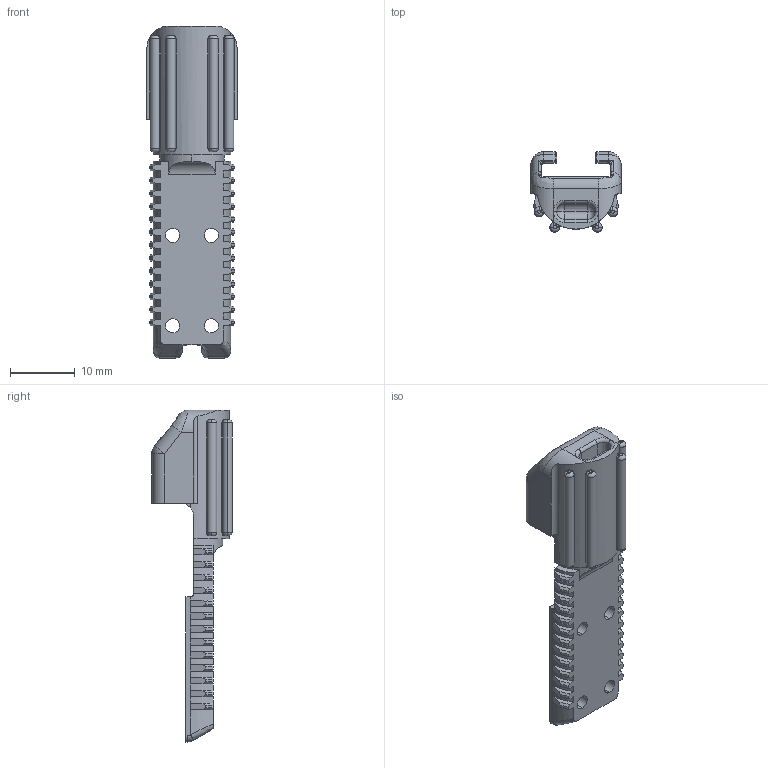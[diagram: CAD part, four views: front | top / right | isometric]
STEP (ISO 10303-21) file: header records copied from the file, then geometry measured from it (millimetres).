
FILE_DESCRIPTION (( 'STEP AP203' ), '1' );
FILE_NAME ('BR01_FOOT_FOREFOOT_v6.STEP', '2023-06-17T07:28:28', ( '' ), ( '' ), '', '', '' );
FILE_SCHEMA (( 'CONFIG_CONTROL_DESIGN' ));
Length unit declared in the file: millimetre
Products named in the file (1): BR01_FOOT_FOREFOOT_v6
Bounding box: 14 x 12.47 x 51.45 mm (x, y, z)
Volume: 2274.8 mm3; surface area: 2920.8 mm2
Topology: 1 solids, 1 shells, 432 faces, 1144 edges, 706 vertices
Faces by surface type: cylinder 146, plane 146, torus 58, cone 52, bspline 22, sphere 8
Entity records: 14208 total; most frequent: CARTESIAN_POINT 3644, ORIENTED_EDGE 2264, DIRECTION 2196, EDGE_CURVE 1132, AXIS2_PLACEMENT_3D 849, VERTEX_POINT 706, VECTOR 498, LINE 498
